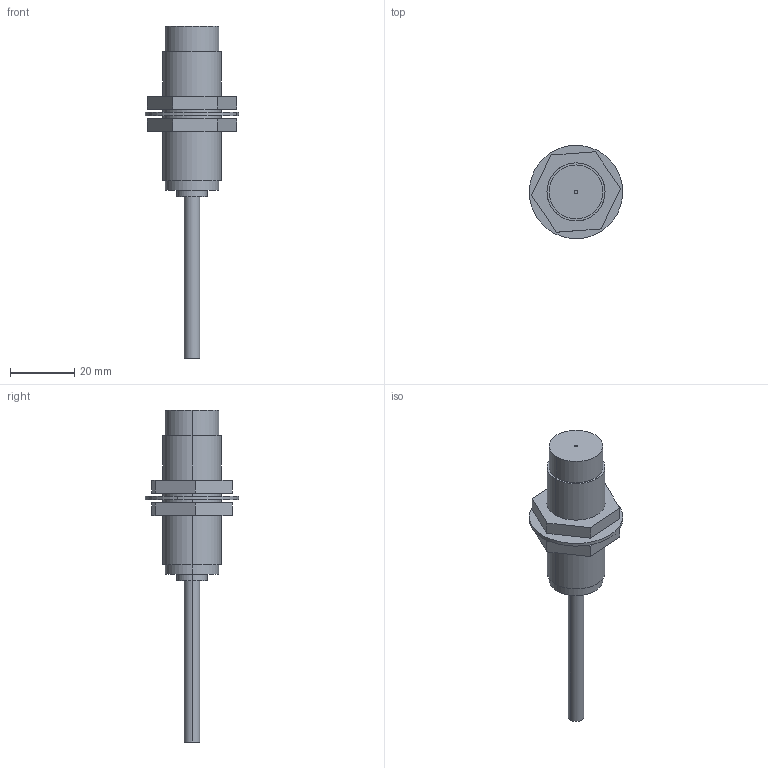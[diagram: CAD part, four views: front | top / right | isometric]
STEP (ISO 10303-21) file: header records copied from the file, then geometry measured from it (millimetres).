
FILE_DESCRIPTION (( 'STEP AP203' ), '1' );
FILE_NAME ('gx-118ml.STEP', '2017-05-18T02:07:54', ( '' ), ( '' ), 'SwSTEP 2.0', 'SolidWorks 2014', '' );
FILE_SCHEMA (( 'CONFIG_CONTROL_DESIGN' ));
Length unit declared in the file: millimetre
Products named in the file (4): gx-118ml benti; gx-118ml; gx-118ml dianpian; gx-118ml luomu
Assembly tree (4 placements, depth 2):
  gx-118ml
    gx-118ml benti
    gx-118ml dianpian
    gx-118ml luomu  x2
Bounding box: 28.99 x 28.99 x 103 mm (x, y, z)
Volume: 15987.4 mm3; surface area: 7217.3 mm2
Topology: 4 solids, 4 shells, 60 faces, 126 edges, 84 vertices
Faces by surface type: cylinder 30, plane 30
Entity records: 1796 total; most frequent: DIRECTION 272, CARTESIAN_POINT 227, ORIENTED_EDGE 204, AXIS2_PLACEMENT_3D 113, EDGE_CURVE 102, VERTEX_POINT 68, EDGE_LOOP 64, CIRCLE 56
